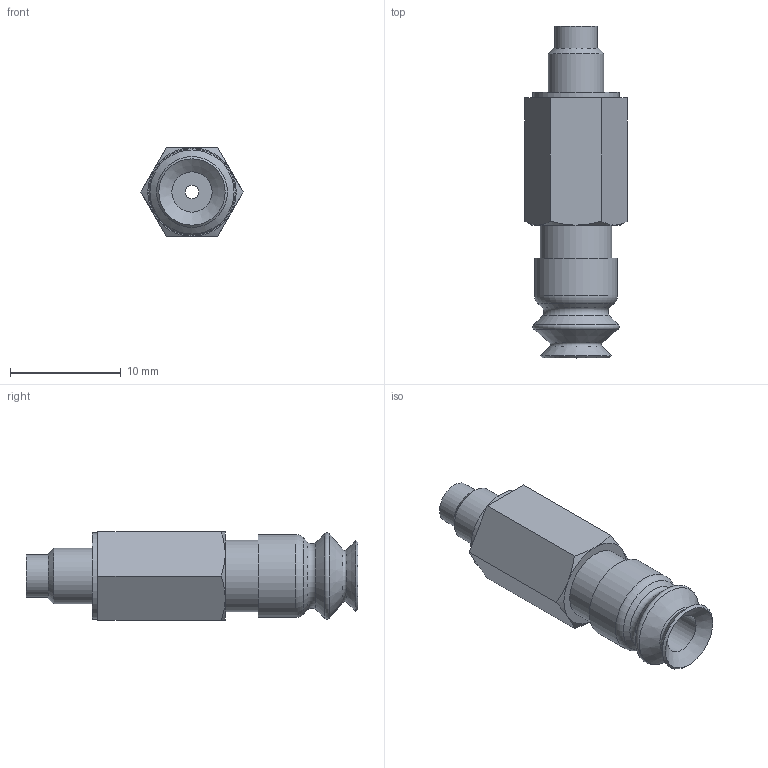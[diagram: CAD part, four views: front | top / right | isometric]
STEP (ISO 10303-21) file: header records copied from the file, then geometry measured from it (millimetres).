
FILE_DESCRIPTION(('STEP AP203'),'1');
FILE_NAME('.stp','2025-04-23T03:26:01',(' '),(' '),'Spatial InterOp 3D',' ',' ');
FILE_SCHEMA(('CONFIG_CONTROL_DESIGN'));
Length unit declared in the file: millimetre
Products named in the file (4): BPSS-L3-BPJG-6-※; BPSS-7-L3-M; BPSS-7-L3-F; BPJG-6-※
Assembly tree (3 placements, depth 2):
  BPSS-L3-BPJG-6-※
    BPSS-7-L3-M
    BPSS-7-L3-F
    BPJG-6-※
Bounding box: 9.24 x 30 x 8 mm (x, y, z)
Volume: 1002.5 mm3; surface area: 1666.4 mm2
Topology: 3 solids, 3 shells, 57 faces, 113 edges, 70 vertices
Faces by surface type: plane 20, cylinder 15, cone 14, torus 8
Full cylindrical faces by diameter (mm): 1.2 x1, 2.4 x2, 3.4 x1, 3.64 x1, 3.8 x1, 4 x2, 5 x1, 6 x2, 6.5 x2, 7.5 x1, 7.8 x1
Entity records: 1454 total; most frequent: DIRECTION 234, CARTESIAN_POINT 221, ORIENTED_EDGE 148, AXIS2_PLACEMENT_3D 111, EDGE_LOOP 102, FACE_OUTER_BOUND 80, EDGE_CURVE 74, VERTEX_POINT 62
